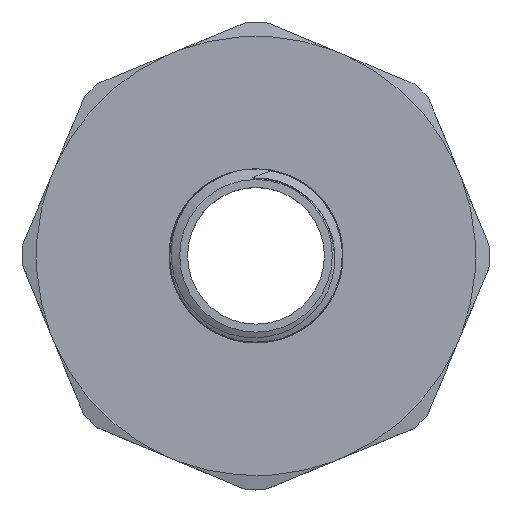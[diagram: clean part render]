
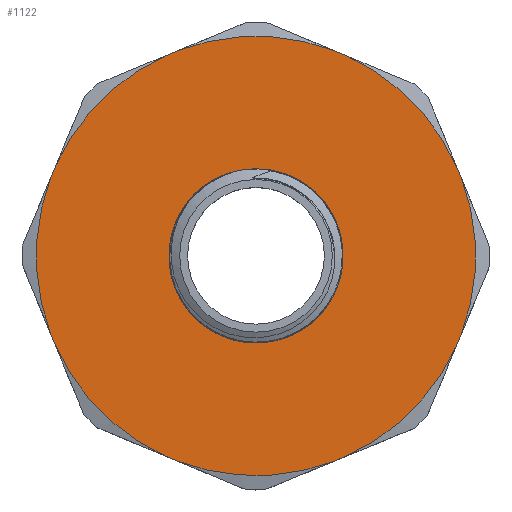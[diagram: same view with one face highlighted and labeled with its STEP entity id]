
A CAD part, top view. The second image highlights one B-rep face of the part: STEP entity #1122.
In plain terms, the highlighted planar face has unit normal (0, 0, 1) by its records, which use the part's own axes.
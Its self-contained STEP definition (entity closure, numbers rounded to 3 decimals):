
#15=PLANE('',#1239);
#79=FACE_BOUND('',#173,.T.);
#109=FACE_OUTER_BOUND('',#172,.T.);
#172=EDGE_LOOP('',(#871,#872,#873,#874,#875,#876,#877,#878,#879,#880,#881,
#882,#883,#884,#885,#886));
#173=EDGE_LOOP('',(#887,#888));
#215=CIRCLE('',#1182,12.085);
#216=CIRCLE('',#1183,12.085);
#220=CIRCLE('',#1199,30.514);
#222=CIRCLE('',#1202,30.514);
#224=CIRCLE('',#1205,30.514);
#226=CIRCLE('',#1208,30.514);
#228=CIRCLE('',#1211,30.514);
#230=CIRCLE('',#1214,30.514);
#232=CIRCLE('',#1217,30.514);
#234=CIRCLE('',#1220,30.514);
#337=LINE('',#4175,#387);
#338=LINE('',#4176,#388);
#339=LINE('',#4177,#389);
#340=LINE('',#4178,#390);
#341=LINE('',#4179,#391);
#342=LINE('',#4180,#392);
#343=LINE('',#4181,#393);
#344=LINE('',#4182,#394);
#387=VECTOR('',#1425,10.);
#388=VECTOR('',#1426,10.);
#389=VECTOR('',#1427,10.);
#390=VECTOR('',#1428,10.);
#391=VECTOR('',#1429,10.);
#392=VECTOR('',#1430,10.);
#393=VECTOR('',#1431,10.);
#394=VECTOR('',#1432,10.);
#425=VERTEX_POINT('',#1588);
#426=VERTEX_POINT('',#1590);
#459=VERTEX_POINT('',#2607);
#461=VERTEX_POINT('',#2613);
#463=VERTEX_POINT('',#2620);
#465=VERTEX_POINT('',#2626);
#467=VERTEX_POINT('',#2633);
#469=VERTEX_POINT('',#2639);
#471=VERTEX_POINT('',#2646);
#473=VERTEX_POINT('',#2652);
#475=VERTEX_POINT('',#2659);
#477=VERTEX_POINT('',#2665);
#479=VERTEX_POINT('',#2672);
#481=VERTEX_POINT('',#2678);
#483=VERTEX_POINT('',#2685);
#485=VERTEX_POINT('',#2691);
#488=VERTEX_POINT('',#2700);
#489=VERTEX_POINT('',#2704);
#546=EDGE_CURVE('',#425,#426,#215,.T.);
#547=EDGE_CURVE('',#426,#425,#216,.T.);
#594=EDGE_CURVE('',#459,#461,#220,.T.);
#598=EDGE_CURVE('',#463,#465,#222,.T.);
#602=EDGE_CURVE('',#467,#469,#224,.T.);
#606=EDGE_CURVE('',#471,#473,#226,.T.);
#610=EDGE_CURVE('',#475,#477,#228,.T.);
#614=EDGE_CURVE('',#479,#481,#230,.T.);
#618=EDGE_CURVE('',#483,#485,#232,.T.);
#621=EDGE_CURVE('',#489,#488,#234,.T.);
#659=EDGE_CURVE('',#488,#483,#337,.T.);
#660=EDGE_CURVE('',#485,#479,#338,.T.);
#661=EDGE_CURVE('',#481,#475,#339,.T.);
#662=EDGE_CURVE('',#477,#471,#340,.T.);
#663=EDGE_CURVE('',#473,#467,#341,.T.);
#664=EDGE_CURVE('',#469,#463,#342,.T.);
#665=EDGE_CURVE('',#465,#459,#343,.T.);
#666=EDGE_CURVE('',#461,#489,#344,.T.);
#871=ORIENTED_EDGE('',*,*,#621,.T.);
#872=ORIENTED_EDGE('',*,*,#659,.T.);
#873=ORIENTED_EDGE('',*,*,#618,.T.);
#874=ORIENTED_EDGE('',*,*,#660,.T.);
#875=ORIENTED_EDGE('',*,*,#614,.T.);
#876=ORIENTED_EDGE('',*,*,#661,.T.);
#877=ORIENTED_EDGE('',*,*,#610,.T.);
#878=ORIENTED_EDGE('',*,*,#662,.T.);
#879=ORIENTED_EDGE('',*,*,#606,.T.);
#880=ORIENTED_EDGE('',*,*,#663,.T.);
#881=ORIENTED_EDGE('',*,*,#602,.T.);
#882=ORIENTED_EDGE('',*,*,#664,.T.);
#883=ORIENTED_EDGE('',*,*,#598,.T.);
#884=ORIENTED_EDGE('',*,*,#665,.T.);
#885=ORIENTED_EDGE('',*,*,#594,.T.);
#886=ORIENTED_EDGE('',*,*,#666,.T.);
#887=ORIENTED_EDGE('',*,*,#547,.F.);
#888=ORIENTED_EDGE('',*,*,#546,.F.);
#1122=ADVANCED_FACE('',(#109,#79),#15,.T.);
#1182=AXIS2_PLACEMENT_3D('',#1591,#1295,#1296);
#1183=AXIS2_PLACEMENT_3D('',#1592,#1297,#1298);
#1199=AXIS2_PLACEMENT_3D('',#2617,#1341,#1342);
#1202=AXIS2_PLACEMENT_3D('',#2630,#1347,#1348);
#1205=AXIS2_PLACEMENT_3D('',#2643,#1353,#1354);
#1208=AXIS2_PLACEMENT_3D('',#2656,#1359,#1360);
#1211=AXIS2_PLACEMENT_3D('',#2669,#1365,#1366);
#1214=AXIS2_PLACEMENT_3D('',#2682,#1371,#1372);
#1217=AXIS2_PLACEMENT_3D('',#2695,#1377,#1378);
#1220=AXIS2_PLACEMENT_3D('',#2705,#1383,#1384);
#1239=AXIS2_PLACEMENT_3D('',#4174,#1423,#1424);
#1295=DIRECTION('center_axis',(0.,0.,1.));
#1296=DIRECTION('ref_axis',(1.,0.,0.));
#1297=DIRECTION('center_axis',(0.,0.,1.));
#1298=DIRECTION('ref_axis',(1.,0.,0.));
#1341=DIRECTION('center_axis',(0.,0.,1.));
#1342=DIRECTION('ref_axis',(0.,1.,0.));
#1347=DIRECTION('center_axis',(0.,0.,1.));
#1348=DIRECTION('ref_axis',(0.,1.,0.));
#1353=DIRECTION('center_axis',(0.,0.,1.));
#1354=DIRECTION('ref_axis',(0.,1.,0.));
#1359=DIRECTION('center_axis',(0.,0.,1.));
#1360=DIRECTION('ref_axis',(0.,1.,0.));
#1365=DIRECTION('center_axis',(0.,0.,1.));
#1366=DIRECTION('ref_axis',(0.,1.,0.));
#1371=DIRECTION('center_axis',(0.,0.,1.));
#1372=DIRECTION('ref_axis',(0.,1.,0.));
#1377=DIRECTION('center_axis',(0.,0.,1.));
#1378=DIRECTION('ref_axis',(0.,1.,0.));
#1383=DIRECTION('center_axis',(0.,0.,1.));
#1384=DIRECTION('ref_axis',(0.,1.,0.));
#1423=DIRECTION('center_axis',(0.,0.,1.));
#1424=DIRECTION('ref_axis',(1.,0.,0.));
#1425=DIRECTION('',(-0.38,0.925,0.));
#1426=DIRECTION('',(-0.923,0.385,0.));
#1427=DIRECTION('',(-0.925,-0.38,0.));
#1428=DIRECTION('',(-0.385,-0.923,0.));
#1429=DIRECTION('',(0.38,-0.925,0.));
#1430=DIRECTION('',(0.923,-0.385,0.));
#1431=DIRECTION('',(0.925,0.38,0.));
#1432=DIRECTION('',(0.385,0.923,0.));
#1588=CARTESIAN_POINT('',(0.,12.085,27.496));
#1590=CARTESIAN_POINT('',(0.,-12.085,27.496));
#1591=CARTESIAN_POINT('Origin',(0.,0.,27.496));
#1592=CARTESIAN_POINT('Origin',(0.,0.,27.496));
#2607=CARTESIAN_POINT('',(12.46,-27.854,27.496));
#2613=CARTESIAN_POINT('',(27.794,-12.593,27.496));
#2617=CARTESIAN_POINT('Origin',(0.,0.,27.496));
#2620=CARTESIAN_POINT('',(-10.885,-28.507,27.496));
#2626=CARTESIAN_POINT('',(10.749,-28.558,27.496));
#2630=CARTESIAN_POINT('Origin',(0.,0.,27.496));
#2633=CARTESIAN_POINT('',(-27.854,-12.46,27.496));
#2639=CARTESIAN_POINT('',(-12.593,-27.794,27.496));
#2643=CARTESIAN_POINT('Origin',(0.,0.,27.496));
#2646=CARTESIAN_POINT('',(-28.507,10.885,27.496));
#2652=CARTESIAN_POINT('',(-28.558,-10.749,27.496));
#2656=CARTESIAN_POINT('Origin',(0.,0.,27.496));
#2659=CARTESIAN_POINT('',(-12.46,27.854,27.496));
#2665=CARTESIAN_POINT('',(-27.794,12.593,27.496));
#2669=CARTESIAN_POINT('Origin',(0.,0.,27.496));
#2672=CARTESIAN_POINT('',(10.885,28.507,27.496));
#2678=CARTESIAN_POINT('',(-10.749,28.558,27.496));
#2682=CARTESIAN_POINT('Origin',(0.,0.,27.496));
#2685=CARTESIAN_POINT('',(27.854,12.46,27.496));
#2691=CARTESIAN_POINT('',(12.593,27.794,27.496));
#2695=CARTESIAN_POINT('Origin',(0.,0.,27.496));
#2700=CARTESIAN_POINT('',(28.558,10.749,27.496));
#2704=CARTESIAN_POINT('',(28.507,-10.885,27.496));
#2705=CARTESIAN_POINT('Origin',(0.,0.,27.496));
#4174=CARTESIAN_POINT('Origin',(0.,-12.085,27.496));
#4175=CARTESIAN_POINT('',(33.013,-0.078,27.496));
#4176=CARTESIAN_POINT('',(23.399,23.288,27.496));
#4177=CARTESIAN_POINT('',(0.078,33.013,27.496));
#4178=CARTESIAN_POINT('',(-23.288,23.399,27.496));
#4179=CARTESIAN_POINT('',(-33.013,0.078,27.496));
#4180=CARTESIAN_POINT('',(-23.399,-23.288,27.496));
#4181=CARTESIAN_POINT('',(-0.078,-33.013,27.496));
#4182=CARTESIAN_POINT('',(23.288,-23.399,27.496));
